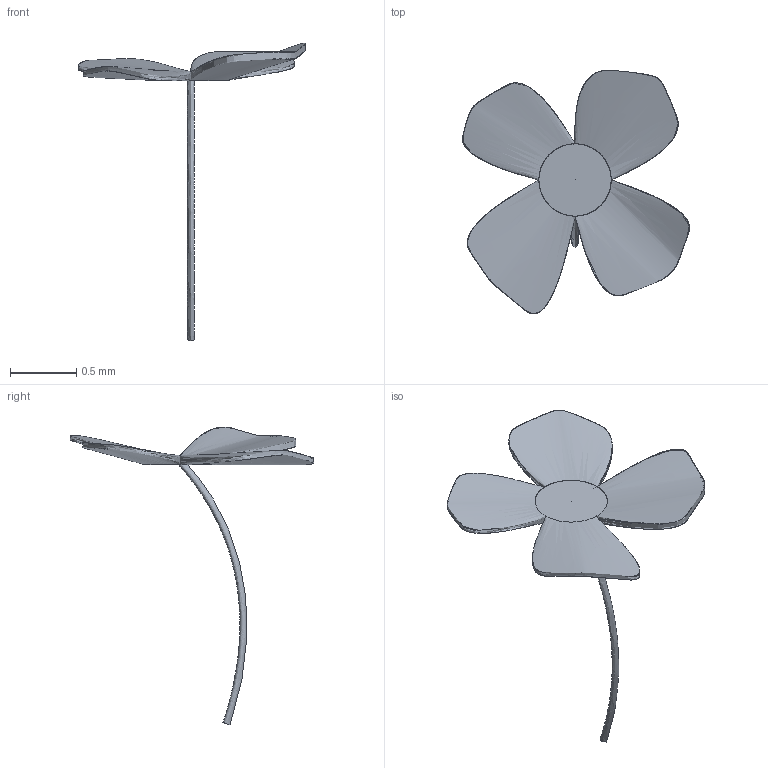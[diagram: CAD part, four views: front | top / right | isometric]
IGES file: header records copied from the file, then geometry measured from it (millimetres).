
Global section: file name: /home/giovy/xcmodel/MIO/1fiore.igs; native system: XCMODEL ver.3.0 Universita' di Bologna; preprocessor: formato IGES Nov. 2001; date: 031114.123740; units: millimetre
Bounding box: 1.71 x 1.83 x 2.24 mm (x, y, z)
Surface area: 5.1 mm2 (no closed solid volume)
Topology: 0 solids, 0 shells, 6 faces, 22 edges, 20 vertices
Faces by surface type: bspline 6
